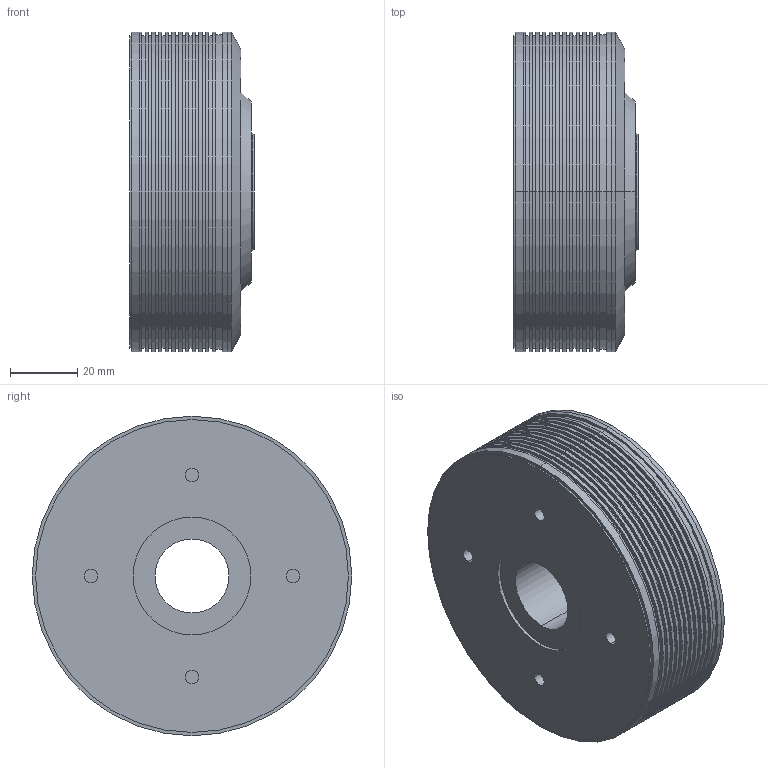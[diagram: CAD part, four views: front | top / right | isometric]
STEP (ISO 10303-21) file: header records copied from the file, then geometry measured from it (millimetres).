
FILE_DESCRIPTION((''),'2;1');
FILE_NAME('R80','2020-09-27T',('Administrator'),(''),'PRO/ENGINEER BY PARAMETRIC TECHNOLOGY CORPORATION, 2013040','PRO/ENGINEER BY PARAMETRIC TECHNOLOGY CORPORATION, 2013040','');
FILE_SCHEMA(('CONFIG_CONTROL_DESIGN'));
Length unit declared in the file: millimetre
Products named in the file (1): R80
Bounding box: 37.1 x 95 x 95 mm (x, y, z)
Volume: 221920.5 mm3; surface area: 33037.8 mm2
Topology: 1 solids, 1 shells, 122 faces, 244 edges, 160 vertices
Faces by surface type: cylinder 78, plane 38, cone 6
Entity records: 3286 total; most frequent: DIRECTION 648, CARTESIAN_POINT 526, ORIENTED_EDGE 488, AXIS2_PLACEMENT_3D 282, EDGE_CURVE 244, VERTEX_POINT 160, EDGE_LOOP 160, CIRCLE 160
